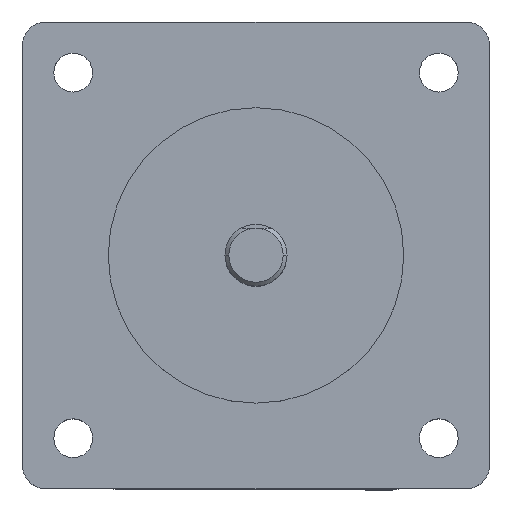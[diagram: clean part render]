
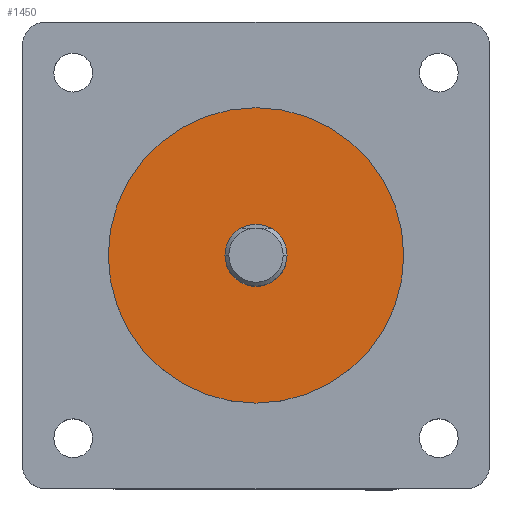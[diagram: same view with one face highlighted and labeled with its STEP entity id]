
A CAD part, top view. The second image highlights one B-rep face of the part: STEP entity #1450.
In plain terms, the highlighted planar face has unit normal (0, 0, 1).
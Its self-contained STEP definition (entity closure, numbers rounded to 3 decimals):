
#91 = CARTESIAN_POINT ( 'NONE',  ( 0., 0., 74.6 ) ) ;
#203 = ORIENTED_EDGE ( 'NONE', *, *, #2041, .F. ) ;
#212 = DIRECTION ( 'NONE',  ( 0., 0., 1. ) ) ;
#337 = CIRCLE ( 'NONE', #1670, 19.05 ) ;
#518 = VERTEX_POINT ( 'NONE', #3626 ) ;
#608 = ORIENTED_EDGE ( 'NONE', *, *, #2642, .T. ) ;
#703 = DIRECTION ( 'NONE',  ( 1., 0., 0. ) ) ;
#714 = CARTESIAN_POINT ( 'NONE',  ( 0., 0., 74.6 ) ) ;
#1017 = PLANE ( 'NONE',  #1900 ) ;
#1053 = DIRECTION ( 'NONE',  ( 1., 0., 0. ) ) ;
#1140 = ORIENTED_EDGE ( 'NONE', *, *, #1725, .F. ) ;
#1150 = CARTESIAN_POINT ( 'NONE',  ( 0., 0., 74.6 ) ) ;
#1279 = CIRCLE ( 'NONE', #3296, 19.05 ) ;
#1285 = ORIENTED_EDGE ( 'NONE', *, *, #2009, .T. ) ;
#1450 = ADVANCED_FACE ( 'NONE', ( #1641, #2759 ), #1017, .T. ) ;
#1482 = CIRCLE ( 'NONE', #1509, 4. ) ;
#1509 = AXIS2_PLACEMENT_3D ( 'NONE', #91, #3900, #2962 ) ;
#1632 = CIRCLE ( 'NONE', #1750, 4. ) ;
#1641 = FACE_OUTER_BOUND ( 'NONE', #1870, .T. ) ;
#1670 = AXIS2_PLACEMENT_3D ( 'NONE', #3932, #2972, #1053 ) ;
#1725 = EDGE_CURVE ( 'NONE', #518, #3141, #1632, .T. ) ;
#1750 = AXIS2_PLACEMENT_3D ( 'NONE', #1150, #212, #3399 ) ;
#1870 = EDGE_LOOP ( 'NONE', ( #608, #1285 ) ) ;
#1900 = AXIS2_PLACEMENT_3D ( 'NONE', #714, #3599, #3905 ) ;
#1943 = DIRECTION ( 'NONE',  ( 0., 0., 1. ) ) ;
#2009 = EDGE_CURVE ( 'NONE', #2746, #3992, #337, .T. ) ;
#2041 = EDGE_CURVE ( 'NONE', #3141, #518, #1482, .T. ) ;
#2298 = CARTESIAN_POINT ( 'NONE',  ( 0., 0., 74.6 ) ) ;
#2642 = EDGE_CURVE ( 'NONE', #3992, #2746, #1279, .T. ) ;
#2660 = CARTESIAN_POINT ( 'NONE',  ( 4., 0., 74.6 ) ) ;
#2697 = CARTESIAN_POINT ( 'NONE',  ( 19.05, 0., 74.6 ) ) ;
#2746 = VERTEX_POINT ( 'NONE', #2697 ) ;
#2759 = FACE_BOUND ( 'NONE', #3998, .T. ) ;
#2962 = DIRECTION ( 'NONE',  ( 1., 0., 0. ) ) ;
#2972 = DIRECTION ( 'NONE',  ( 0., 0., 1. ) ) ;
#3141 = VERTEX_POINT ( 'NONE', #2660 ) ;
#3296 = AXIS2_PLACEMENT_3D ( 'NONE', #2298, #1943, #703 ) ;
#3399 = DIRECTION ( 'NONE',  ( 1., 0., 0. ) ) ;
#3599 = DIRECTION ( 'NONE',  ( 0., 0., 1. ) ) ;
#3626 = CARTESIAN_POINT ( 'NONE',  ( -4., 0., 74.6 ) ) ;
#3900 = DIRECTION ( 'NONE',  ( 0., 0., 1. ) ) ;
#3905 = DIRECTION ( 'NONE',  ( 1., 0., 0. ) ) ;
#3932 = CARTESIAN_POINT ( 'NONE',  ( 0., 0., 74.6 ) ) ;
#3992 = VERTEX_POINT ( 'NONE', #4015 ) ;
#3998 = EDGE_LOOP ( 'NONE', ( #1140, #203 ) ) ;
#4015 = CARTESIAN_POINT ( 'NONE',  ( -19.05, 0., 74.6 ) ) ;
